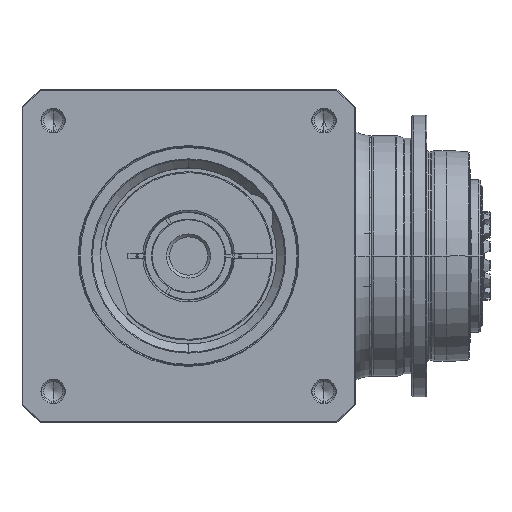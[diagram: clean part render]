
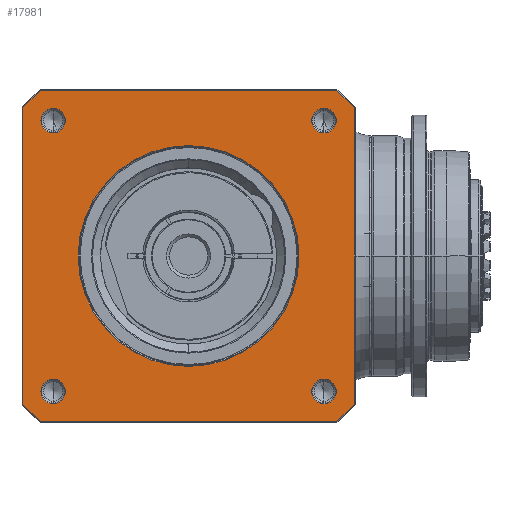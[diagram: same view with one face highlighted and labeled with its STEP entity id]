
A CAD part, front view. The second image highlights one B-rep face of the part: STEP entity #17981.
In plain terms, the highlighted planar face has unit normal (0, -1, 0) as drawn and (0, 0, 1) by its records, which use the part's own axes.
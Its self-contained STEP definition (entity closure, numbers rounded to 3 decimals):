
#16732=CARTESIAN_POINT('',(0.,0.,
76.));
#16733=DIRECTION('',(0.,0.,-1.));
#16734=DIRECTION('',(0.,-1.,0.));
#16735=AXIS2_PLACEMENT_3D('',#16732,#16733,#16734);
#16737=CARTESIAN_POINT('',(0.,0.,
76.));
#16738=DIRECTION('',(0.,0.,-1.));
#16739=DIRECTION('',(0.,1.,0.));
#16740=AXIS2_PLACEMENT_3D('',#16737,#16738,#16739);
#16742=CARTESIAN_POINT('',(0.,0.,76.));
#16743=DIRECTION('',(0.,0.,1.));
#16744=DIRECTION('',(-0.746,-0.666,0.));
#16745=AXIS2_PLACEMENT_3D('',#16742,#16743,#16744);
#16757=DIRECTION('',(1.,0.,0.));
#16758=VECTOR('',#16757,154.58);
#16759=CARTESIAN_POINT('',(-77.29,-86.5,76.));
#16760=LINE('',#16759,#16758);
#16770=CARTESIAN_POINT('',(0.,0.,76.));
#16771=DIRECTION('',(0.,0.,1.));
#16772=DIRECTION('',(0.666,-0.746,0.));
#16773=AXIS2_PLACEMENT_3D('',#16770,#16771,#16772);
#16785=DIRECTION('',(0.,1.,0.));
#16786=VECTOR('',#16785,154.58);
#16787=CARTESIAN_POINT('',(86.5,-77.29,76.));
#16788=LINE('',#16787,#16786);
#16798=CARTESIAN_POINT('',(0.,0.,76.));
#16799=DIRECTION('',(0.,0.,1.));
#16800=DIRECTION('',(0.746,0.666,0.));
#16801=AXIS2_PLACEMENT_3D('',#16798,#16799,#16800);
#16813=DIRECTION('',(-1.,0.,0.));
#16814=VECTOR('',#16813,154.58);
#16815=CARTESIAN_POINT('',(77.29,86.5,76.));
#16816=LINE('',#16815,#16814);
#16821=CARTESIAN_POINT('',(0.,0.,76.));
#16822=DIRECTION('',(0.,0.,1.));
#16823=DIRECTION('',(-0.666,0.746,0.));
#16824=AXIS2_PLACEMENT_3D('',#16821,#16822,#16823);
#16841=DIRECTION('',(0.,-1.,0.));
#16842=VECTOR('',#16841,154.58);
#16843=CARTESIAN_POINT('',(-86.5,77.29,76.));
#16844=LINE('',#16843,#16842);
#16927=CARTESIAN_POINT('',(-70.711,70.711,76.));
#16928=DIRECTION('',(0.,0.,1.));
#16929=DIRECTION('',(-1.,0.,0.));
#16930=AXIS2_PLACEMENT_3D('',#16927,#16928,#16929);
#16945=CARTESIAN_POINT('',(-70.711,70.711,76.));
#16946=DIRECTION('',(0.,0.,1.));
#16947=DIRECTION('',(1.,0.,0.));
#16948=AXIS2_PLACEMENT_3D('',#16945,#16946,#16947);
#16981=CARTESIAN_POINT('',(70.711,70.711,76.));
#16982=DIRECTION('',(0.,0.,1.));
#16983=DIRECTION('',(-1.,0.,0.));
#16984=AXIS2_PLACEMENT_3D('',#16981,#16982,#16983);
#16999=CARTESIAN_POINT('',(70.711,70.711,76.));
#17000=DIRECTION('',(0.,0.,1.));
#17001=DIRECTION('',(1.,0.,0.));
#17002=AXIS2_PLACEMENT_3D('',#16999,#17000,#17001);
#17035=CARTESIAN_POINT('',(70.711,-70.711,76.));
#17036=DIRECTION('',(0.,0.,1.));
#17037=DIRECTION('',(-1.,0.,0.));
#17038=AXIS2_PLACEMENT_3D('',#17035,#17036,#17037);
#17053=CARTESIAN_POINT('',(70.711,-70.711,76.));
#17054=DIRECTION('',(0.,0.,1.));
#17055=DIRECTION('',(1.,0.,0.));
#17056=AXIS2_PLACEMENT_3D('',#17053,#17054,#17055);
#17089=CARTESIAN_POINT('',(-70.711,-70.711,76.));
#17090=DIRECTION('',(0.,0.,1.));
#17091=DIRECTION('',(-1.,0.,0.));
#17092=AXIS2_PLACEMENT_3D('',#17089,#17090,#17091);
#17107=CARTESIAN_POINT('',(-70.711,-70.711,76.));
#17108=DIRECTION('',(0.,0.,1.));
#17109=DIRECTION('',(1.,0.,0.));
#17110=AXIS2_PLACEMENT_3D('',#17107,#17108,#17109);
#17239=CARTESIAN_POINT('',(86.5,-77.29,76.));
#17240=CARTESIAN_POINT('',(86.5,77.29,76.));
#17241=VERTEX_POINT('',#17239);
#17242=VERTEX_POINT('',#17240);
#17247=CARTESIAN_POINT('',(77.29,-86.5,76.));
#17248=VERTEX_POINT('',#17247);
#17251=CARTESIAN_POINT('',(-77.29,-86.5,76.));
#17252=VERTEX_POINT('',#17251);
#17255=CARTESIAN_POINT('',(-86.5,-77.29,76.));
#17256=VERTEX_POINT('',#17255);
#17259=CARTESIAN_POINT('',(-86.5,77.29,76.));
#17260=VERTEX_POINT('',#17259);
#17263=CARTESIAN_POINT('',(-77.29,86.5,76.));
#17264=VERTEX_POINT('',#17263);
#17267=CARTESIAN_POINT('',(77.29,86.5,76.));
#17268=VERTEX_POINT('',#17267);
#17277=CARTESIAN_POINT('',(-77.111,70.711,76.));
#17278=CARTESIAN_POINT('',(-64.311,70.711,76.));
#17279=VERTEX_POINT('',#17277);
#17280=VERTEX_POINT('',#17278);
#17303=CARTESIAN_POINT('',(77.111,70.711,76.));
#17304=CARTESIAN_POINT('',(64.311,70.711,76.));
#17305=VERTEX_POINT('',#17303);
#17306=VERTEX_POINT('',#17304);
#17311=CARTESIAN_POINT('',(77.111,-70.711,76.));
#17312=CARTESIAN_POINT('',(64.311,-70.711,76.));
#17313=VERTEX_POINT('',#17311);
#17314=VERTEX_POINT('',#17312);
#17319=CARTESIAN_POINT('',(-64.311,-70.711,76.));
#17320=CARTESIAN_POINT('',(-77.111,-70.711,76.));
#17321=VERTEX_POINT('',#17319);
#17322=VERTEX_POINT('',#17320);
#17327=CARTESIAN_POINT('',(0.,-57.65,76.));
#17328=CARTESIAN_POINT('',(0.,57.65,
76.));
#17329=VERTEX_POINT('',#17327);
#17330=VERTEX_POINT('',#17328);
#17929=CARTESIAN_POINT('',(0.,0.,76.));
#17930=DIRECTION('',(0.,0.,1.));
#17931=DIRECTION('',(1.,0.,0.));
#17932=AXIS2_PLACEMENT_3D('',#17929,#17930,#17931);
#17933=PLANE('',#17932);
#17935=ORIENTED_EDGE('',*,*,#17934,.F.);
#17937=ORIENTED_EDGE('',*,*,#17936,.F.);
#17939=ORIENTED_EDGE('',*,*,#17938,.F.);
#17941=ORIENTED_EDGE('',*,*,#17940,.F.);
#17943=ORIENTED_EDGE('',*,*,#17942,.F.);
#17945=ORIENTED_EDGE('',*,*,#17944,.F.);
#17947=ORIENTED_EDGE('',*,*,#17946,.F.);
#17949=ORIENTED_EDGE('',*,*,#17948,.F.);
#17950=EDGE_LOOP('',(#17935,#17937,#17939,#17941,#17943,#17945,#17947,#17949));
#17951=FACE_OUTER_BOUND('',#17950,.F.);
#17952=ORIENTED_EDGE('',*,*,#17919,.F.);
#17954=ORIENTED_EDGE('',*,*,#17953,.F.);
#17955=EDGE_LOOP('',(#17952,#17954));
#17956=FACE_BOUND('',#17955,.F.);
#17958=ORIENTED_EDGE('',*,*,#17957,.T.);
#17960=ORIENTED_EDGE('',*,*,#17959,.T.);
#17961=EDGE_LOOP('',(#17958,#17960));
#17962=FACE_BOUND('',#17961,.F.);
#17964=ORIENTED_EDGE('',*,*,#17963,.T.);
#17966=ORIENTED_EDGE('',*,*,#17965,.T.);
#17967=EDGE_LOOP('',(#17964,#17966));
#17968=FACE_BOUND('',#17967,.F.);
#17970=ORIENTED_EDGE('',*,*,#17969,.T.);
#17972=ORIENTED_EDGE('',*,*,#17971,.T.);
#17973=EDGE_LOOP('',(#17970,#17972));
#17974=FACE_BOUND('',#17973,.F.);
#17976=ORIENTED_EDGE('',*,*,#17975,.T.);
#17978=ORIENTED_EDGE('',*,*,#17977,.T.);
#17979=EDGE_LOOP('',(#17976,#17978));
#17980=FACE_BOUND('',#17979,.F.);
#17981=ADVANCED_FACE('',(#17951,#17956,#17962,#17968,#17974,#17980),#17933,.T.);
#16736=CIRCLE('',#16735,57.65);
#16741=CIRCLE('',#16740,57.65);
#16746=CIRCLE('',#16745,116.);
#16774=CIRCLE('',#16773,116.);
#16802=CIRCLE('',#16801,116.);
#16825=CIRCLE('',#16824,116.);
#16931=CIRCLE('',#16930,6.4);
#16949=CIRCLE('',#16948,6.4);
#16985=CIRCLE('',#16984,6.4);
#17003=CIRCLE('',#17002,6.4);
#17039=CIRCLE('',#17038,6.4);
#17057=CIRCLE('',#17056,6.4);
#17093=CIRCLE('',#17092,6.4);
#17111=CIRCLE('',#17110,6.4);
#17919=EDGE_CURVE('',#17329,#17330,#16736,.T.);
#17934=EDGE_CURVE('',#17256,#17252,#16746,.T.);
#17936=EDGE_CURVE('',#17260,#17256,#16844,.T.);
#17938=EDGE_CURVE('',#17264,#17260,#16825,.T.);
#17940=EDGE_CURVE('',#17268,#17264,#16816,.T.);
#17942=EDGE_CURVE('',#17242,#17268,#16802,.T.);
#17944=EDGE_CURVE('',#17241,#17242,#16788,.T.);
#17946=EDGE_CURVE('',#17248,#17241,#16774,.T.);
#17948=EDGE_CURVE('',#17252,#17248,#16760,.T.);
#17953=EDGE_CURVE('',#17330,#17329,#16741,.T.);
#17957=EDGE_CURVE('',#17279,#17280,#16931,.T.);
#17959=EDGE_CURVE('',#17280,#17279,#16949,.T.);
#17963=EDGE_CURVE('',#17306,#17305,#16985,.T.);
#17965=EDGE_CURVE('',#17305,#17306,#17003,.T.);
#17969=EDGE_CURVE('',#17314,#17313,#17039,.T.);
#17971=EDGE_CURVE('',#17313,#17314,#17057,.T.);
#17975=EDGE_CURVE('',#17322,#17321,#17093,.T.);
#17977=EDGE_CURVE('',#17321,#17322,#17111,.T.);
